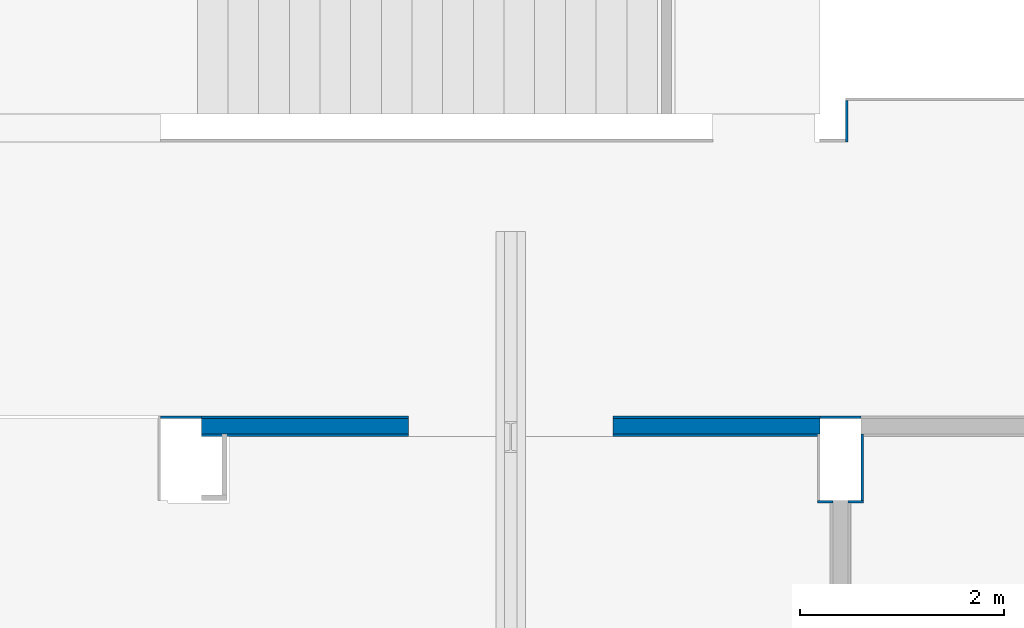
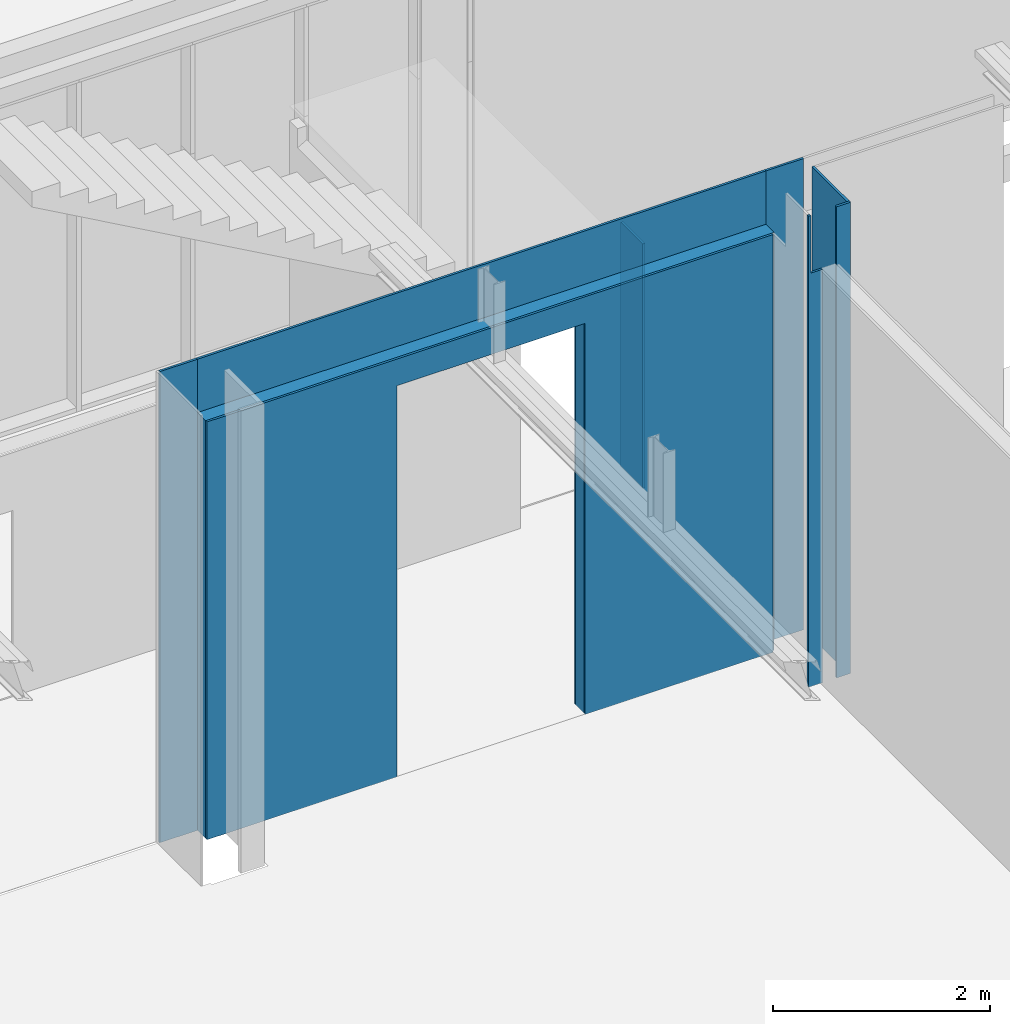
# One storey, part 14 of 27: 9 walls, 3 openings.
"""IFC2X3 building model written with IfcOpenShell, lengths in centimetres."""

import ifcopenshell
import ifcopenshell.guid

model = None  # the IFC model being written
_history = None  # IfcOwnerHistory: only IFC2X3 demands one
_inside = {}  # id of a spatial element -> (the spatial element, [elements in it])
_under = {}  # id of a project, library or spatial element -> (it, [spatial elements below it])
_declared = {}  # id of a project -> (the project, [libraries it declares])
_typed = {}  # id of a type object -> (the type object, [elements of that type])
_made_of = {}  # id of a material, layer set ... -> (it, [elements and type objects made of it])


def new_model(schema):
    """Start an empty IFC model of exactly this schema.

    Asked for "IFC4X3", IfcOpenShell would pick the latest addendum, in which some entities
    have other attributes; the version numbers below select the first issue.
    IFC2X3 requires an IfcOwnerHistory on every rooted entity: one is made here for all.
    """
    global model, _history
    if schema == "IFC4X3":
        model = ifcopenshell.file(schema_version=(4, 3, 0, 0))
    else:
        model = ifcopenshell.file(schema=schema)
    _inside.clear()
    _under.clear()
    _declared.clear()
    _typed.clear()
    _made_of.clear()
    _history = None
    if model.schema == "IFC2X3":
        org = make("IfcOrganization", Name="unknown")
        user = make(
            "IfcPersonAndOrganization",
            ThePerson=make("IfcPerson", FamilyName="unknown"),
            TheOrganization=org,
        )
        app = make(
            "IfcApplication",
            ApplicationDeveloper=org,
            Version="unknown",
            ApplicationFullName="unknown",
            ApplicationIdentifier="unknown",
        )
        _history = make(
            "IfcOwnerHistory",
            OwningUser=user,
            OwningApplication=app,
            ChangeAction="ADDED",
            CreationDate=0,
        )
    return model


def make(cls, **values):
    """One entity of the class cls with the attributes given. An attribute that is None is left unset."""
    return model.create_entity(
        cls, **{name: value for name, value in values.items() if value is not None}
    )


def entity(cls, *values):
    """Any entity or typed value of the class cls, its attributes in the order of the schema. None: left unset."""
    e = model.create_entity(cls)
    for i, value in enumerate(values):
        if value is not None:
            e[i] = value
    return e


def rooted(cls, **values):
    """An entity with a GlobalId (a new one), such as an element, a storey or a relation."""
    return make(cls, GlobalId=ifcopenshell.guid.new(), OwnerHistory=_history, **values)


def si_unit(unit_type, name, prefix=None):
    """IfcSIUnit, for example si_unit("LENGTHUNIT", "METRE", prefix="MILLI")."""
    return make("IfcSIUnit", UnitType=unit_type, Prefix=prefix, Name=name)


def converted_unit(unit_type, name, factor, base, dimensions=None, offset=None):
    """IfcConversionBasedUnit, such as the inch: factor (a typed value) times the base unit."""
    return make(
        "IfcConversionBasedUnit"
        if offset is None
        else "IfcConversionBasedUnitWithOffset",
        ConversionOffset=offset,
        Dimensions=None
        if dimensions is None
        else entity("IfcDimensionalExponents", *dimensions),
        UnitType=unit_type,
        Name=name,
        ConversionFactor=make(
            "IfcMeasureWithUnit", ValueComponent=factor, UnitComponent=base
        ),
    )


def derived_unit(unit_type, elements):
    """IfcDerivedUnit: a product of units, each with its exponent."""
    return make(
        "IfcDerivedUnit",
        Elements=[
            make("IfcDerivedUnitElement", Unit=unit, Exponent=power)
            for unit, power in elements
        ],
        UnitType=unit_type,
    )


def assignment(units):
    """IfcUnitAssignment: the units of a project."""
    return None if units is None else make("IfcUnitAssignment", Units=units)


def point(xyz):
    """IfcCartesianPoint."""
    return None if xyz is None else make("IfcCartesianPoint", Coordinates=xyz)


def direction(xyz):
    """IfcDirection."""
    return None if xyz is None else make("IfcDirection", DirectionRatios=xyz)


def frame(location, z_axis=None, x_axis=None):
    """IfcAxis2Placement3D, a coordinate frame: its origin and axes. An axis left out is left unset."""
    return make(
        "IfcAxis2Placement3D",
        Location=point(location),
        Axis=direction(z_axis),
        RefDirection=direction(x_axis),
    )


def frame_2d(location, x_axis=None):
    """IfcAxis2Placement2D, a coordinate frame in the plane: its origin and x axis."""
    return make(
        "IfcAxis2Placement2D", Location=point(location), RefDirection=direction(x_axis)
    )


def origin():
    """The frame at (0, 0, 0) with its axes left unset."""
    return frame((0.0, 0.0, 0.0))


def origin_2d_with_axis():
    """The frame at (0, 0) in the plane with the x axis (1, 0) written out."""
    return frame_2d((0.0, 0.0), x_axis=(1.0, 0.0))


def place(relative_to, where):
    """IfcLocalPlacement: puts the frame where relative to a parent placement (None: the world)."""
    return make(
        "IfcLocalPlacement", PlacementRelTo=relative_to, RelativePlacement=where
    )


def context(
    kind, dimensions, precision=None, world=None, true_north=None, identifier=None
):
    """IfcGeometricRepresentationContext, for example the 3D "Model" context."""
    return make(
        "IfcGeometricRepresentationContext",
        ContextIdentifier=identifier,
        ContextType=kind,
        CoordinateSpaceDimension=dimensions,
        Precision=precision,
        WorldCoordinateSystem=world,
        TrueNorth=true_north,
    )


def subcontext(parent, identifier, kind, view, scale=None):
    """IfcGeometricRepresentationSubContext, for example "Body" below "Model"."""
    return make(
        "IfcGeometricRepresentationSubContext",
        ContextIdentifier=identifier,
        ContextType=kind,
        ParentContext=parent,
        TargetScale=scale,
        TargetView=view,
    )


def project(units=None, contexts=None):
    """IfcProject with its units and contexts."""
    return rooted(
        "IfcProject",
        Name="project",
        RepresentationContexts=contexts,
        UnitsInContext=assignment(units),
    )


def spatial(cls, under=None, at=None, **own):
    """A site, building, storey or space (cls), placed at a placement, below another one or the project."""
    s = rooted(cls, ObjectPlacement=at, **own)
    if under is not None:
        _under.setdefault(under.id(), (under, []))[1].append(s)
    return s


def polyline(points):
    """IfcPolyline through the points."""
    return make("IfcPolyline", Points=[point(p) for p in points])


def profile(cls, at=None, kind="AREA", **sizes):
    """A parametric profile (cls). Its sizes go by their IFC names, for example OverallWidth=200.0."""
    return make(cls, ProfileType=kind, Position=at, **sizes)


def rectangle(**sizes):
    """IfcRectangleProfileDef."""
    return profile("IfcRectangleProfileDef", **sizes)


def extrude(swept, where, along, depth):
    """IfcExtrudedAreaSolid: the profile swept, set in the frame where, extruded along a direction by depth."""
    return make(
        "IfcExtrudedAreaSolid",
        SweptArea=swept,
        Position=where,
        ExtrudedDirection=direction(along),
        Depth=depth,
    )


def clip(a, b, op="DIFFERENCE"):
    """IfcBooleanClippingResult: the solid a cut by the half space b."""
    return make(
        "IfcBooleanClippingResult", Operator=op, FirstOperand=a, SecondOperand=b
    )


def bounded_halfspace(plane, agree, where, boundary):
    """IfcPolygonalBoundedHalfSpace: a half space limited to a polygon's prism."""
    return make(
        "IfcPolygonalBoundedHalfSpace",
        BaseSurface=make("IfcPlane", Position=plane),
        AgreementFlag=agree,
        Position=where,
        PolygonalBoundary=boundary,
    )


def shape(context_of_items, identifier, shape_type, items):
    """IfcShapeRepresentation: the items that make up one representation, for example the "Body"."""
    return make(
        "IfcShapeRepresentation",
        ContextOfItems=context_of_items,
        RepresentationIdentifier=identifier,
        RepresentationType=shape_type,
        Items=items,
    )


def material(Name=None, Category=None):
    """IfcMaterial."""
    return make("IfcMaterial", Name=Name, Category=Category)


def layer(
    of_material, thickness, ventilated=None, Name=None, Category=None, Priority=None
):
    """IfcMaterialLayer: one layer of a wall or slab, of a material (None: an air gap)."""
    return make(
        "IfcMaterialLayer",
        Material=of_material,
        LayerThickness=thickness,
        IsVentilated=ventilated,
        Name=Name,
        Category=Category,
        Priority=Priority,
    )


def layer_set(layers, Name=None):
    """IfcMaterialLayerSet."""
    return make("IfcMaterialLayerSet", MaterialLayers=layers, LayerSetName=Name)


def layer_usage(for_layer_set, set_direction, sense, offset, extent=None):
    """IfcMaterialLayerSetUsage: how a layer set lies in its element."""
    return make(
        "IfcMaterialLayerSetUsage",
        ForLayerSet=for_layer_set,
        LayerSetDirection=set_direction,
        DirectionSense=sense,
        OffsetFromReferenceLine=offset,
        ReferenceExtent=extent,
    )


def made_of(thing, what):
    """Note that an element or type object is made of a material, layer set ...; save() writes the relation."""
    if what is not None:
        _made_of.setdefault(what.id(), (what, []))[1].append(thing)
    return thing


def type_object(cls, material=None, **own):
    """A type object (cls), such as IfcWallType, which elements share."""
    return made_of(rooted(cls, **own), material)


def element(
    cls,
    number,
    at=None,
    inside=None,
    cuts=None,
    type_object=None,
    material=None,
    context=None,
    identifier="Body",
    shape_type=None,
    held_by="IfcProductDefinitionShape",
    body=None,
    shapes=None,
    **own,
):
    """One element of the class cls, such as IfcWall. Its Tag is "e" and its number.

    at: its placement. inside: the storey or other place that contains it. cuts: it is an
    opening in that element (IfcRelVoidsElement). A single representation is given by context,
    identifier, shape_type and body (its items); several are given by shapes. held_by: the class
    of the entity that holds the representations. save() writes the other relations.
    """
    e = rooted(cls, Tag="e%d" % number, ObjectPlacement=at, **own)
    if body is not None:
        shapes = [shape(context, identifier, shape_type, body)]
    if shapes is not None:
        e.Representation = make(held_by, Representations=shapes)
    if inside is not None:
        _inside.setdefault(inside.id(), (inside, []))[1].append(e)
    if cuts is not None:
        rooted(
            "IfcRelVoidsElement", RelatingBuildingElement=cuts, RelatedOpeningElement=e
        )
    if type_object is not None:
        _typed.setdefault(type_object.id(), (type_object, []))[1].append(e)
    return made_of(e, material)


def aggregate(whole, parts):
    """IfcRelAggregates: a whole, such as a stair, and the parts it consists of."""
    return rooted("IfcRelAggregates", RelatingObject=whole, RelatedObjects=parts)


def save(model, path):
    """Write the relations noted so far, then the file.

    IfcRelAggregates (storeys below a building ...), IfcRelContainedInSpatialStructure (elements
    in a storey), IfcRelDefinesByType, IfcRelAssociatesMaterial and IfcRelDeclares: one each for
    every whole, place, type object, material and project.
    """
    for whole, parts in _under.values():
        aggregate(whole, parts)
    for where, things in _inside.values():
        rooted(
            "IfcRelContainedInSpatialStructure",
            RelatedElements=things,
            RelatingStructure=where,
        )
    for kind, things in _typed.values():
        rooted("IfcRelDefinesByType", RelatedObjects=things, RelatingType=kind)
    for what, things in _made_of.values():
        rooted("IfcRelAssociatesMaterial", RelatedObjects=things, RelatingMaterial=what)
    for by, libraries in _declared.values():
        rooted("IfcRelDeclares", RelatingContext=by, RelatedDefinitions=libraries)
    model.write(path)


model = new_model("IFC2X3")

# Units and contexts
model_context = context("Model", 3, precision=0.001, world=origin(), true_north=direction((6.12303176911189e-17, 1.0)))
body_context = subcontext(model_context, "Body", "Model", "MODEL_VIEW")
ifc_project = project(units=[si_unit("LENGTHUNIT", "METRE", prefix="CENTI"), si_unit("AREAUNIT", "SQUARE_METRE"), si_unit("VOLUMEUNIT", "CUBIC_METRE"), converted_unit("PLANEANGLEUNIT", "DEGREE", entity("IfcRatioMeasure", 0.0174532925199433), si_unit("PLANEANGLEUNIT", "RADIAN"), dimensions=[0, 0, 0, 0, 0, 0, 0]), si_unit("MASSUNIT", "GRAM", prefix="KILO"), derived_unit("MASSDENSITYUNIT", [(si_unit("MASSUNIT", "GRAM", prefix="KILO"), 1), (si_unit("LENGTHUNIT", "METRE"), -3)]), derived_unit("MOMENTOFINERTIAUNIT", [(si_unit("LENGTHUNIT", "METRE"), 4)]), si_unit("TIMEUNIT", "SECOND"), si_unit("FREQUENCYUNIT", "HERTZ"), si_unit("THERMODYNAMICTEMPERATUREUNIT", "DEGREE_CELSIUS"), derived_unit("THERMALTRANSMITTANCEUNIT", [(si_unit("MASSUNIT", "GRAM", prefix="KILO"), 1), (si_unit("THERMODYNAMICTEMPERATUREUNIT", "KELVIN"), -1), (si_unit("TIMEUNIT", "SECOND"), -3)]), derived_unit("VOLUMETRICFLOWRATEUNIT", [(si_unit("LENGTHUNIT", "METRE"), 3), (si_unit("TIMEUNIT", "SECOND"), -1)]), si_unit("ELECTRICCURRENTUNIT", "AMPERE"), si_unit("ELECTRICVOLTAGEUNIT", "VOLT"), si_unit("POWERUNIT", "WATT"), si_unit("FORCEUNIT", "NEWTON", prefix="KILO"), si_unit("ILLUMINANCEUNIT", "LUX"), si_unit("LUMINOUSFLUXUNIT", "LUMEN"), si_unit("LUMINOUSINTENSITYUNIT", "CANDELA"), derived_unit("USERDEFINED", [(si_unit("MASSUNIT", "GRAM", prefix="KILO"), -1), (si_unit("LENGTHUNIT", "METRE"), -2), (si_unit("TIMEUNIT", "SECOND"), 3), (si_unit("LUMINOUSFLUXUNIT", "LUMEN"), 1)]), derived_unit("LINEARVELOCITYUNIT", [(si_unit("LENGTHUNIT", "METRE"), 1), (si_unit("TIMEUNIT", "SECOND"), -1)]), si_unit("PRESSUREUNIT", "PASCAL"), derived_unit("USERDEFINED", [(si_unit("LENGTHUNIT", "METRE"), -2), (si_unit("MASSUNIT", "GRAM", prefix="KILO"), 1), (si_unit("TIMEUNIT", "SECOND"), -2)]), derived_unit("LINEARFORCEUNIT", [(si_unit("MASSUNIT", "GRAM", prefix="KILO"), 1), (si_unit("LENGTHUNIT", "METRE"), 1), (si_unit("TIMEUNIT", "SECOND"), -2), (si_unit("LENGTHUNIT", "METRE"), -1)]), derived_unit("PLANARFORCEUNIT", [(si_unit("MASSUNIT", "GRAM", prefix="KILO"), 1), (si_unit("LENGTHUNIT", "METRE"), 1), (si_unit("TIMEUNIT", "SECOND"), -2), (si_unit("LENGTHUNIT", "METRE"), -2)])], contexts=[model_context])

# Site, building, storey
site_placement = place(None, origin())
site = spatial("IfcSite", under=ifc_project, at=site_placement, Name="Default", CompositionType="ELEMENT")
building_placement = place(site_placement, origin())
building = spatial("IfcBuilding", under=site, at=building_placement, CompositionType="ELEMENT")
storey_placement = place(building_placement, origin())
storey = spatial("IfcBuildingStorey", under=building, at=storey_placement, Name="Poziom 0 A +/-0,00", CompositionType="ELEMENT", Elevation=3.38570427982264e-11)

# Wall, opening
ifc_material_1 = material(Name="Wełna skalna")
ifc_layer_1 = layer(ifc_material_1, 15.0)
ifc_layer_set_1 = layer_set([ifc_layer_1], Name="Ściana podstawowa:Ściana GK rdzeń gr. 15cm")
ifc_layer_usage_1 = layer_usage(ifc_layer_set_1, "AXIS2", "NEGATIVE", 7.5)
wall_type_1 = type_object("IfcWallType", Name="Ściana podstawowa:Ściana GK rdzeń gr. 15cm", PredefinedType="STANDARD", material=ifc_layer_set_1)
wall_1_placement = place(storey_placement, frame((-959.265109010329, 1462.62745208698, 0.0)))
wall_1 = element("IfcWallStandardCase", 1, at=wall_1_placement, inside=storey, type_object=wall_type_1, material=ifc_layer_usage_1, Name="Ściana podstawowa:Ściana GK rdzeń gr. 15cm", ObjectType="Ściana podstawowa:Ściana GK rdzeń gr. 15cm", context=body_context, shape_type="SweptSolid", body=[
    extrude(rectangle(XDim=604.999999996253, YDim=15.0000000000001, at=frame_2d((302.499999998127, 0.0), x_axis=(-1.0, 0.0))), origin(), (0.0, 0.0, 1.0), 469.999999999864),
])
opening_1_placement = place(wall_1_placement, origin())
element("IfcOpeningElement", 2, at=opening_1_placement, cuts=wall_1, Name="Ściana podstawowa:Ściana GK rdzeń gr. 15cm", ObjectType="Opening", context=body_context, shape_type="SweptSolid", body=[
    extrude(rectangle(XDim=440.0, YDim=200.0, at=origin_2d_with_axis()), frame((302.499989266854, -144.9, 220.0), z_axis=(0.0, 1.0, 0.0), x_axis=(0.0, 0.0, -1.0)), (0.0, 0.0, 1.0), 304.8),
])

ifc_material_2 = material(Name="Tynk gipsowy")
ifc_layer_2 = layer(ifc_material_2, 2.5)
ifc_layer_set_2 = layer_set([ifc_layer_2], Name="Ściana podstawowa:Ściana GK wykonczenie gr. 2,5cm")
ifc_layer_usage_2 = layer_usage(ifc_layer_set_2, "AXIS2", "NEGATIVE", 1.25)
wall_type_2 = type_object("IfcWallType", Name="Ściana podstawowa:Ściana GK wykonczenie gr. 2,5cm", PredefinedType="STANDARD", material=ifc_layer_set_2)
wall_2_placement = place(storey_placement, frame((-959.265109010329, 1471.37745208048, 0.0)))
wall_2 = element("IfcWallStandardCase", 3, at=wall_2_placement, inside=storey, type_object=wall_type_2, material=ifc_layer_usage_2, Name="Ściana podstawowa:Ściana GK wykonczenie gr. 2,5cm", ObjectType="Ściana podstawowa:Ściana GK wykonczenie gr. 2,5cm", context=body_context, shape_type="SweptSolid", body=[
    extrude(rectangle(XDim=604.999999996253, YDim=2.49999999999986, at=frame_2d((302.499999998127, 0.0), x_axis=(-1.0, 0.0))), origin(), (0.0, 0.0, 1.0), 529.999999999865),
])
opening_2_placement = place(wall_2_placement, origin())
element("IfcOpeningElement", 4, at=opening_2_placement, cuts=wall_2, Name="Ściana podstawowa:Ściana GK wykonczenie gr. 2,5cm", ObjectType="Opening", context=body_context, shape_type="SweptSolid", body=[
    extrude(rectangle(XDim=440.0, YDim=200.0, at=origin_2d_with_axis()), frame((302.499989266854, -153.649999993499, 220.0), z_axis=(0.0, 1.0, 0.0), x_axis=(0.0, 0.0, -1.0)), (0.0, 0.0, 1.0), 304.8),
])

ifc_layer_usage_3 = layer_usage(ifc_layer_set_2, "AXIS2", "NEGATIVE", 1.25)
wall_3_placement = place(storey_placement, frame((-959.265109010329, 1453.87745208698, 0.0)))
wall_3 = element("IfcWallStandardCase", 5, at=wall_3_placement, inside=storey, type_object=wall_type_2, material=ifc_layer_usage_3, Name="Ściana podstawowa:Ściana GK wykonczenie gr. 2,5cm", ObjectType="Ściana podstawowa:Ściana GK wykonczenie gr. 2,5cm", context=body_context, shape_type="Clipping", body=[
    clip(extrude(rectangle(XDim=602.499999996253, YDim=2.49999999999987, at=frame_2d((301.249999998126, -3.99680288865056e-15), x_axis=(-1.0, 0.0))), origin(), (0.0, 0.0, 1.0), 469.99999999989), bounded_halfspace(frame((0.0, -1.25000000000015, 470.0), z_axis=(0.0, 0.0, 1.0), x_axis=(0.0, -1.0, 0.0)), False, frame((0.0, -1.25000000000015, 470.0), z_axis=(0.0, 0.0, 1.0), x_axis=(0.0, -1.0, 0.0)), polyline([(0.0, 0.0), (0.0, 602.499999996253), (-2.50000000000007, 602.499999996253), (-2.50000000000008, 0.0), (0.0, 0.0)]))),
])
opening_3_placement = place(wall_3_placement, origin())
element("IfcOpeningElement", 6, at=opening_3_placement, cuts=wall_3, Name="Ściana podstawowa:Ściana GK wykonczenie gr. 2,5cm", ObjectType="Opening", context=body_context, shape_type="SweptSolid", body=[
    extrude(rectangle(XDim=440.0, YDim=200.0, at=origin_2d_with_axis()), frame((302.499989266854, -136.15, 220.0), z_axis=(0.0, 1.0, 0.0), x_axis=(0.0, 0.0, -1.0)), (0.0, 0.0, 1.0), 304.8),
])

# Walls
ifc_layer_3 = layer(ifc_material_2, 2.5)
ifc_layer_set_3 = layer_set([ifc_layer_3], Name="Ściana podstawowa:Tynk wykończenie gr. 2,5cm")
ifc_layer_usage_4 = layer_usage(ifc_layer_set_3, "AXIS2", "NEGATIVE", 1.25)
wall_type_3 = type_object("IfcWallType", Name="Ściana podstawowa:Tynk wykończenie gr. 2,5cm", PredefinedType="STANDARD", material=ifc_layer_set_3)
wall_4_placement = place(storey_placement, frame((-328.015119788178, 1781.19219251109, 0.0), z_axis=(0.0, 0.0, 1.0), x_axis=(0.0, -1.0, 0.0)))
element("IfcWallStandardCase", 7, at=wall_4_placement, inside=storey, type_object=wall_type_3, material=ifc_layer_usage_4, Name="Ściana podstawowa:Tynk wykończenie gr. 2,5cm", ObjectType="Ściana podstawowa:Tynk wykończenie gr. 2,5cm", context=body_context, shape_type="SweptSolid", body=[
    extrude(rectangle(XDim=40.5647405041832, YDim=2.49999999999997, at=frame_2d((20.2823702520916, 0.0), x_axis=(-1.0, 0.0))), origin(), (0.0, 0.0, 1.0), 275.0),
])
ifc_layer_usage_5 = layer_usage(ifc_layer_set_3, "AXIS2", "NEGATIVE", 1.25)
wall_5_placement = place(storey_placement, frame((-999.265119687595, 1471.37745208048, 0.0)))
element("IfcWallStandardCase", 8, at=wall_5_placement, inside=storey, type_object=wall_type_3, material=ifc_layer_usage_5, Name="Ściana podstawowa:Tynk wykończenie gr. 2,5cm", ObjectType="Ściana podstawowa:Tynk wykończenie gr. 2,5cm", context=body_context, shape_type="SweptSolid", body=[
    extrude(rectangle(XDim=40.0000106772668, YDim=2.49999999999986, at=frame_2d((20.0000053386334, 0.0), x_axis=(-1.0, 0.0))), origin(), (0.0, 0.0, 1.0), 529.999999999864),
])
ifc_layer_usage_6 = layer_usage(ifc_layer_set_3, "AXIS2", "NEGATIVE", 1.25)
wall_6_placement = place(storey_placement, frame((-354.265109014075, 1471.37745213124, 0.0)))
element("IfcWallStandardCase", 9, at=wall_6_placement, inside=storey, type_object=wall_type_3, material=ifc_layer_usage_6, Name="Ściana podstawowa:Tynk wykończenie gr. 2,5cm", ObjectType="Ściana podstawowa:Tynk wykończenie gr. 2,5cm", context=body_context, shape_type="SweptSolid", body=[
    extrude(rectangle(XDim=40.0, YDim=2.49999999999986, at=frame_2d((20.0, 0.0), x_axis=(-1.0, 0.0))), origin(), (0.0, 0.0, 1.0), 529.999999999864),
])
ifc_layer_usage_7 = layer_usage(ifc_layer_set_3, "AXIS2", "NEGATIVE", 1.25)
wall_7_placement = place(storey_placement, frame((-356.765109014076, 1388.87745208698, 0.0)))
element("IfcWallStandardCase", 10, at=wall_7_placement, inside=storey, type_object=wall_type_3, material=ifc_layer_usage_7, Name="Ściana podstawowa:Tynk wykończenie gr. 2,5cm", ObjectType="Ściana podstawowa:Tynk wykończenie gr. 2,5cm", context=body_context, shape_type="Clipping", body=[
    clip(clip(extrude(rectangle(XDim=14.9999893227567, YDim=2.49999999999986, at=frame_2d((7.49999466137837, 0.0), x_axis=(-1.0, 0.0))), origin(), (0.0, 0.0, 1.0), 529.999999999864), bounded_halfspace(frame((2.5000000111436, -1.25000000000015, 465.0), z_axis=(-1.0, 0.0, 0.0), x_axis=(0.0, 1.0, 0.0)), True, frame((2.5000000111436, -1.25000000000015, 465.0), z_axis=(-1.0, 0.0, 0.0), x_axis=(0.0, 1.0, 0.0)), polyline([(0.0, 0.0), (0.0, -65.0), (2.50000000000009, -65.0), (2.50000000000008, 0.0), (0.0, 0.0)]))), bounded_halfspace(frame((2.5000000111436, 1.24999999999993, 465.0), z_axis=(0.0, 0.0, -1.0), x_axis=(0.0, 1.0, 0.0)), True, frame((2.5000000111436, 1.24999999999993, 465.0), z_axis=(0.0, 0.0, -1.0), x_axis=(0.0, 1.0, 0.0)), polyline([(0.0, 0.0), (0.0, 12.4999893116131), (-2.50000000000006, 12.4999893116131), (-2.50000000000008, 0.0), (0.0, 0.0)]))),
])
ifc_layer_usage_8 = layer_usage(ifc_layer_set_3, "AXIS2", "NEGATIVE", 1.25)
wall_8_placement = place(storey_placement, frame((-326.765119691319, 1388.87745208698, 0.0)))
element("IfcWallStandardCase", 11, at=wall_8_placement, inside=storey, type_object=wall_type_3, material=ifc_layer_usage_8, Name="Ściana podstawowa:Tynk wykończenie gr. 2,5cm", ObjectType="Ściana podstawowa:Tynk wykończenie gr. 2,5cm", context=body_context, shape_type="SweptSolid", body=[
    extrude(rectangle(XDim=14.9999999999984, YDim=2.49999999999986, at=frame_2d((7.49999999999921, 0.0), x_axis=(-1.0, 0.0))), origin(), (0.0, 0.0, 1.0), 529.999999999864),
])
ifc_layer_usage_9 = layer_usage(ifc_layer_set_3, "AXIS2", "POSITIVE", -1.25)
wall_9_placement = place(storey_placement, frame((-313.015119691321, 1390.12745208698, 0.0), z_axis=(0.0, 0.0, 1.0), x_axis=(0.0, 1.0, 0.0)))
element("IfcWallStandardCase", 12, at=wall_9_placement, inside=storey, type_object=wall_type_3, material=ifc_layer_usage_9, Name="Ściana podstawowa:Tynk wykończenie gr. 2,5cm", ObjectType="Ściana podstawowa:Tynk wykończenie gr. 2,5cm", context=body_context, shape_type="SweptSolid", body=[
    extrude(rectangle(XDim=64.9999999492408, YDim=2.49999999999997, at=frame_2d((32.4999999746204, 0.0), x_axis=(-1.0, 0.0))), origin(), (0.0, 0.0, 1.0), 529.999999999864),
])

save(model, "model.ifc")
